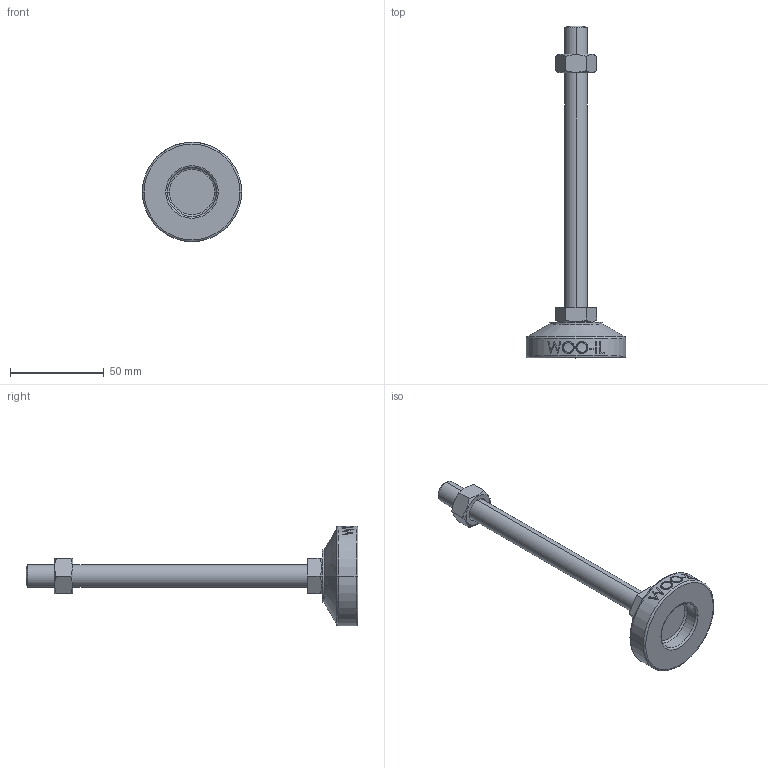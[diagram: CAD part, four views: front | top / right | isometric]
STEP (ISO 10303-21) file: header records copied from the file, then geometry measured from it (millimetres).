
FILE_DESCRIPTION (( 'STEP AP214' ), '1' );
FILE_NAME ('MFZ53-M12-150.step', '2021-01-15T07:03:46', ( '' ), ( '' ), 'SwSTEP 2.0', 'SolidWorks 2019', '' );
FILE_SCHEMA (( 'AUTOMOTIVE_DESIGN' ));
Length unit declared in the file: millimetre
Products named in the file (2): MFZ53-M12-150
Bounding box: 53 x 177 x 53 mm (x, y, z)
Volume: 51458.5 mm3; surface area: 15204.2 mm2
Topology: 3 solids, 3 shells, 106 faces, 243 edges, 154 vertices
Faces by surface type: plane 48, cylinder 18, bspline 16, cone 14, torus 10
Entity records: 4508 total; most frequent: CARTESIAN_POINT 2165, ORIENTED_EDGE 486, DIRECTION 439, EDGE_CURVE 243, AXIS2_PLACEMENT_3D 170, VERTEX_POINT 154, EDGE_LOOP 119, FACE_OUTER_BOUND 106
